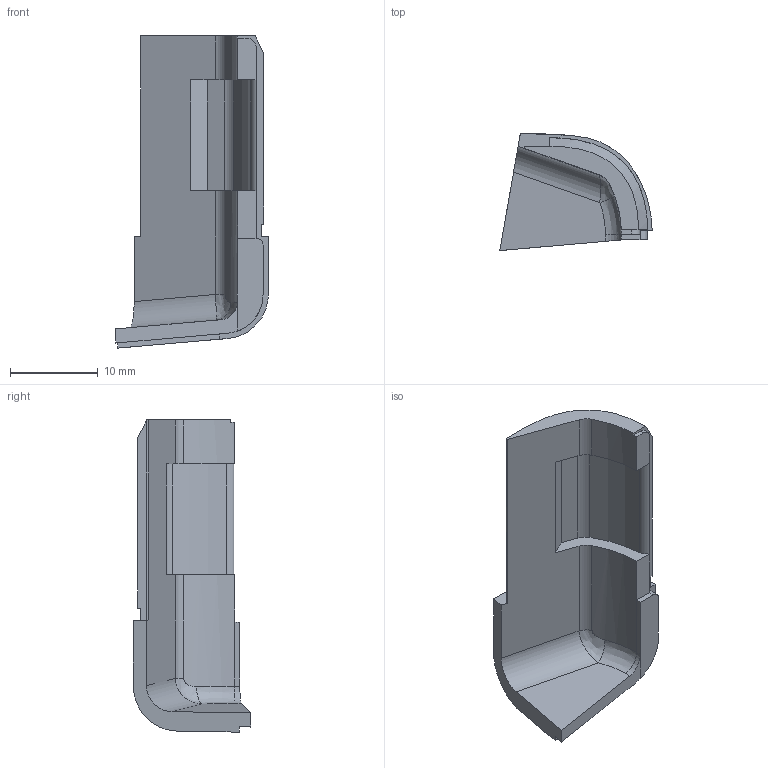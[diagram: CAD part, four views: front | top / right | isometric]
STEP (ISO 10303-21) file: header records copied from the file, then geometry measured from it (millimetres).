
FILE_DESCRIPTION (( 'STEP AP203' ), '1' );
FILE_NAME ('Door Trim End 2.STEP', '2024-09-13T05:23:31', ( '' ), ( '' ), 'SwSTEP 2.0', 'SolidWorks 2021', '' );
FILE_SCHEMA (( 'CONFIG_CONTROL_DESIGN' ));
Length unit declared in the file: millimetre
Products named in the file (1): Door Trim End 2
Bounding box: 17.34 x 13.31 x 35.51 mm (x, y, z)
Volume: 1741.5 mm3; surface area: 1814.8 mm2
Topology: 1 solids, 1 shells, 45 faces, 122 edges, 79 vertices
Faces by surface type: plane 25, cylinder 12, bspline 8
Entity records: 2113 total; most frequent: CARTESIAN_POINT 956, ORIENTED_EDGE 244, DIRECTION 200, EDGE_CURVE 122, VERTEX_POINT 79, VECTOR 78, LINE 78, AXIS2_PLACEMENT_3D 61
